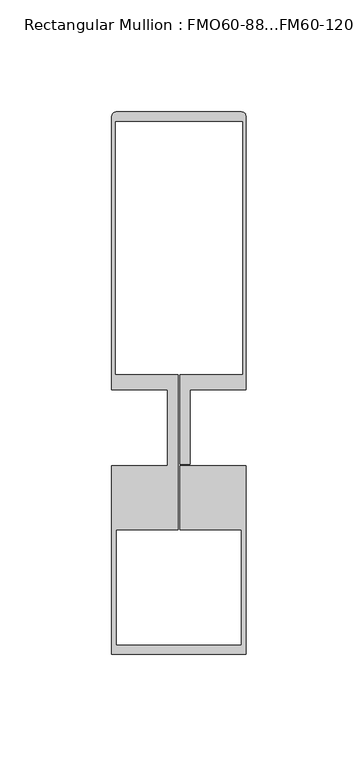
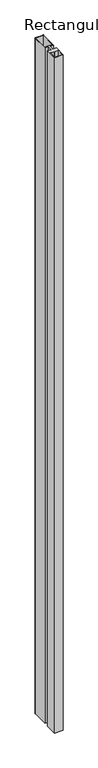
"""IFC4 building model written with IfcOpenShell, lengths in millimetres: member geometry, Rectangular Mullion : FMO60-88...FM60-120."""

from ifc_helpers import new_model, si_unit, point, frame, frame_2d, origin, place, context, project, spatial, polyline, circle_curve, trimmed, segment, composite_curve, outline, extrude, source, transform, mapped, element, save


def rectangular_mullion_fmo60_88_fm60_120_b0ae386d(model_context):
    return source(origin(), model_context, "Body", "SweptSolid", [
        extrude(outline(composite_curve([segment(trimmed(circle_curve(frame_2d((28.0, 139.0574739)), 2.0), [point((28.0, 141.0574739))], [point((30.0, 139.0574739))], False, "CARTESIAN"), True, "CONTINUOUS"), segment(polyline([(30.0, 139.0574739), (30.0, 17.0), (5.0, 17.0), (5.0, -16.2), (0.5, -16.2), (0.5, 23.7957213), (28.6, 23.7957213), (28.6, 136.927677), (-28.6, 136.927677), (-28.6, 23.7957213), (-0.5, 23.7957213), (-0.5, -45.5034642), (-28.0, -45.5034642), (-28.0, -97.009342), (28.0, -97.009342), (28.0, -45.5034642), (0.5, -45.5034642), (0.5, -17.0), (30.0, -17.0), (30.0, -101.009342), (-30.0, -101.009342), (-30.0, -17.0), (-5.0, -17.0), (-5.0, 17.0), (-29.9999999, 17.0), (-29.9999999, 139.0574739)]), True, "CONTINUOUS"), segment(trimmed(circle_curve(frame_2d((-28.0, 139.0574739)), 2.0), [point((-29.9999999, 139.0574739))], [point((-28.0, 141.0574739))], False, "CARTESIAN"), True, "CONTINUOUS"), segment(polyline([(-28.0, 141.0574739), (28.0, 141.0574739)]), True, "CONTINUOUS")], self_intersect=False)), frame((0.0, 0.0, -5000.0), z_axis=(0.0, 0.0, 1.0), x_axis=(1.0, 0.0, 0.0)), (0.0, 0.0, 1.0), 5000.0),
    ])


if __name__ == "__main__":
    model = new_model("IFC4")
    model_context = context("Model", 3, world=origin())
    ifc_project = project(units=[si_unit("LENGTHUNIT", "METRE", prefix="MILLI")], contexts=[model_context])
    site = spatial("IfcSite", under=ifc_project)
    building = spatial("IfcBuilding", under=site)
    placement = place(None, origin())
    rectangular_mullion_fmo60_88_fm60_120_shape = rectangular_mullion_fmo60_88_fm60_120_b0ae386d(model_context)
    element("IfcMember", 1, ObjectType="Rectangular Mullion : FMO60-88...FM60-120", at=placement, inside=building, context=model_context, shape_type="MappedRepresentation", body=[
        mapped(rectangular_mullion_fmo60_88_fm60_120_shape, transform((0.0, 0.0, 0.0), x_axis=(1.0, 0.0, 0.0), y_axis=(0.0, 1.0, 0.0), z_axis=(0.0, 0.0, 1.0))),
    ])
    save(model, "model.ifc")
